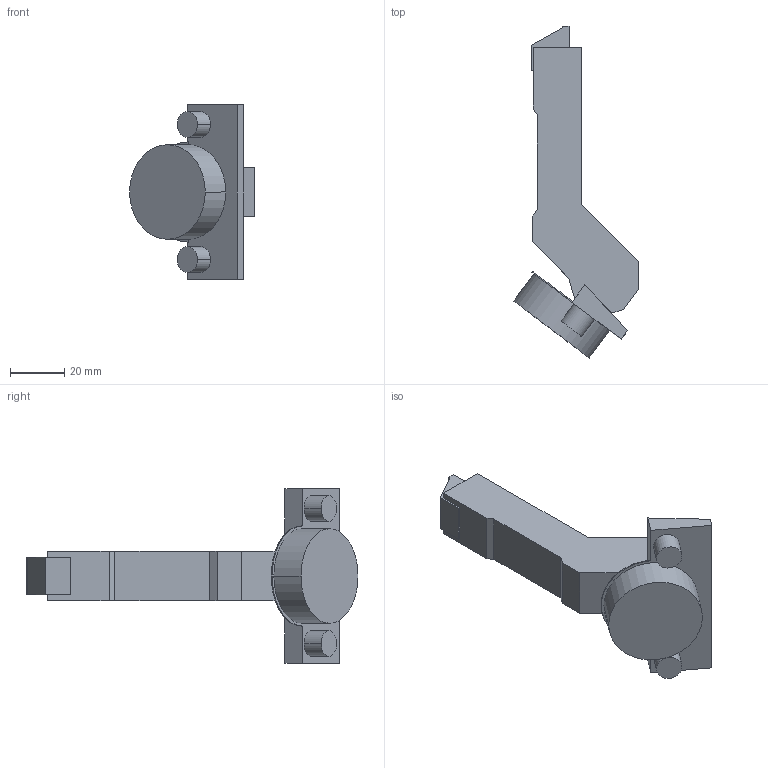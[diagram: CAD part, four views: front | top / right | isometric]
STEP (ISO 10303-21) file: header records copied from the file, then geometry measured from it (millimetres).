
FILE_DESCRIPTION (( 'STEP AP214' ), '1' );
FILE_NAME ('Scharnier T Impresso 110°_+37° HS_BB, einliegend.step', '2010-12-13T10:22:22', ( 'grass' ), ( '' ), 'SwSTEP 2.0', 'SolidWorks 2010', '' );
FILE_SCHEMA (( 'AUTOMOTIVE_DESIGN' ));
Length unit declared in the file: millimetre
Products named in the file (1): Scharnier T Impresso 110°_+37° HS_BB, einliegend
Bounding box: 46.13 x 122.73 x 64.5 mm (x, y, z)
Volume: 58403.9 mm3; surface area: 15148.2 mm2
Topology: 1 solids, 3 shells, 61 faces, 147 edges, 98 vertices
Faces by surface type: plane 43, cylinder 18
Entity records: 1807 total; most frequent: CARTESIAN_POINT 307, DIRECTION 307, ORIENTED_EDGE 294, EDGE_CURVE 147, VECTOR 111, LINE 111, AXIS2_PLACEMENT_3D 98, VERTEX_POINT 98
